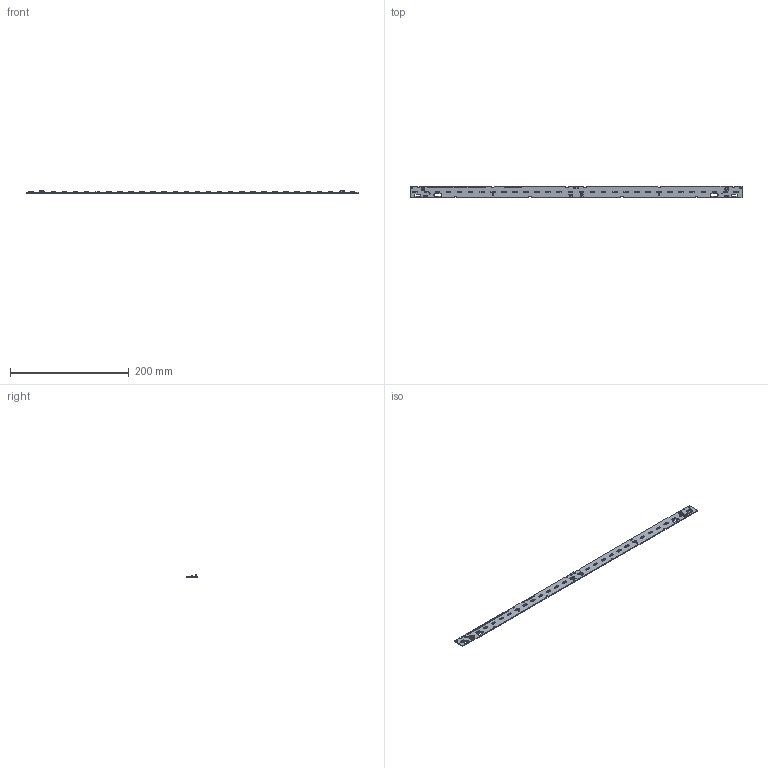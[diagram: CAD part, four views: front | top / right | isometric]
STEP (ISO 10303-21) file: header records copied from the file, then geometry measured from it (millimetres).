
FILE_DESCRIPTION(('Creo Elements/Direct Modeling STEP Export'),'2;1');
FILE_NAME('3D-Model_WU-M-719-STC.stp','2024-10-23T12:31:30',(''),(''),'PTC Creo Elements/Direct Modeling STEP processor for AP214 (Solid Model)','PTC Creo Elements/Direct Modeling 19.0E 27-Jun-2016 (C) Parametric Technology GmbH','');
FILE_SCHEMA(('AUTOMOTIVE_DESIGN { 1 0 10303 214 1 1 1 1 }'));
Length unit declared in the file: millimetre
Products named in the file (160): p1.1; p1; 2065-101_998-403.prt; 2065-101_998-403.prt.1; Konektor_STC_Wago_2065-101_998-403.stp; 2835PCT_3D_MODEL_STEP_1__1_.PRT; 2835PCT_3D_MODEL_STEP_1__2_.PRT; 2835PCT_3D_MODEL_STEP_1__1_.PRT.2.1.1.1.2; 2835PCT_3D_MODEL_STEP_1__1_.PRT.1.1.1.1.1.2; 2835PCT_3D_MODEL_STEP_1__1_.PRT.1.1.1; 2835PCT_3D_MODEL_STEP_1__1_.PRT.2.1.2.1.2; 2835PCT_3D_MODEL_STEP_1__1_.PRT.1.1.1.4.1.2; 2835PCT_3D_MODEL_STEP_1__1_.PRT.1.1.1.2.1.2; 2835PCT_3D_MODEL_STEP_1__1_.PRT.2.1; 2835PCT_3D_MODEL_STEP_1__1_.PRT.1.1.1.3; 2835PCT_3D_MODEL_STEP_1__2_.PRT.1.1.1.1.1.2; 2835PCT_3D_MODEL_STEP_1__2_.PRT.2.1.1.1.2; 2835PCT_3D_MODEL_STEP_1__2_.PRT.1.1.1; 2835PCT_3D_MODEL_STEP_1__2_.PRT.1.1.1.3; 2835PCT_3D_MODEL_STEP_1__2_.PRT.1.1.1.2.1.2; 2835PCT_3D_MODEL_STEP_1__1_.PRT.2.1.3; 2835PCT_3D_MODEL_STEP_1__1_.PRT.2.1.4.1.2; 2835PCT_3D_MODEL_STEP_1__2_.PRT.1.1.1.4.1.2; 2835PCT_3D_MODEL_STEP_1__2_.PRT.2.1; 2835PCT_3D_MODEL_STEP_1__2_.PRT.2.1.4.1.2; 2835PCT_3D_MODEL_STEP_1__2_.PRT.2.1.3; 2835PCT_3D_MODEL_STEP_1__2_.PRT.2.1.2.1.2; _____STEP.PRT.2.1.1.1.2; _____-0_STEP.PRT.1.1.1.1.1.2; _____STEP.PRT.5; _____-0_STEP.PRT.1.1.1.2.1.2; _____-0_STEP.PRT.5; _____-0_STEP.PRT.2.1; _____-0_STEP.PRT.1.1.1.4.1.2; _____-0_STEP.PRT.2.1.1.1.2; _____-0_STEP.PRT.1.1.1.3; _____-0_STEP.PRT.1.1.1; _____STEP.PRT.1.1.1.4.1.2; _____-0_STEP.PRT.2.1.4.1.2; _____STEP.PRT.1.1.1.1.1.2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
Assembly tree (422 placements, depth 6):
  p1.1
  p1
  Konektor_STC_Wago_2065-101_998-403.stp
    2065-101_998-403.prt.1
    2065-101_998-403.prt
  Diode
    J_SERIES_2835.STEP
      2835PCT_3D_MODEL_ORIGIN_CORRECT.ASM
        2835PCT_3D_MODEL_STEP.ASM
          ______STEP.ASM
            2835PCT_3D_MODEL_STEP_1__2_.PRT
            2835PCT_3D_MODEL_STEP_1__1_.PRT
          _____-0_STEP.PRT.5
          _____STEP.PRT.5
    _____-0_STEP.PRT.5  x49
    _____STEP.PRT.5  x49
    _____-0_STEP.PRT.2.1.2.1.2  x4
    _____STEP.PRT.1.1.1.2.1.2  x4
    _____STEP.PRT.1.1.1.3
    _____STEP.PRT.1.1.1.4.1.2  x4
    _____STEP.PRT.1.1.1.1.1.2  x4
    _____STEP.PRT.2.1.4.1.2  x4
    _____STEP.PRT.2.1.3
    _____STEP.PRT.2.1.2.1.2  x4
    _____STEP.PRT.2.1.1.1.2  x4
    _____STEP.PRT.2.1
    _____-0_STEP.PRT.2.1.4.1.2  x4
    _____-0_STEP.PRT.2.1.3
    _____STEP.PRT.1.1.1
    _____-0_STEP.PRT.2.1.1.1.2  x4
    _____-0_STEP.PRT.1.1.1.4.1.2  x4
    _____-0_STEP.PRT.1.1.1
    _____-0_STEP.PRT.1.1.1.3
    _____-0_STEP.PRT.1.1.1.1.1.2  x4
    _____-0_STEP.PRT.1.1.1.2.1.2  x4
    _____-0_STEP.PRT.2.1
    2835PCT_3D_MODEL_STEP_1__2_.PRT.2.1.2.1.2  x4
    2835PCT_3D_MODEL_STEP_1__2_.PRT  x49
    2835PCT_3D_MODEL_STEP_1__2_.PRT.2.1.4.1.2  x4
    2835PCT_3D_MODEL_STEP_1__2_.PRT.2.1.3
    2835PCT_3D_MODEL_STEP_1__1_.PRT  x49
    2835PCT_3D_MODEL_STEP_1__2_.PRT.2.1.1.1.2  x4
    2835PCT_3D_MODEL_STEP_1__2_.PRT.1.1.1.4.1.2  x4
    2835PCT_3D_MODEL_STEP_1__2_.PRT.1.1.1.1.1.2  x4
    2835PCT_3D_MODEL_STEP_1__2_.PRT.1.1.1.2.1.2  x4
    2835PCT_3D_MODEL_STEP_1__1_.PRT.2.1.4.1.2  x4
    2835PCT_3D_MODEL_STEP_1__2_.PRT.2.1
    2835PCT_3D_MODEL_STEP_1__1_.PRT.2.1.2.1.2  x4
    2835PCT_3D_MODEL_STEP_1__1_.PRT.2.1.3
    2835PCT_3D_MODEL_STEP_1__2_.PRT.1.1.1.3
    2835PCT_3D_MODEL_STEP_1__2_.PRT.1.1.1
    2835PCT_3D_MODEL_STEP_1__1_.PRT.1.1.1.2.1.2  x4
    2835PCT_3D_MODEL_STEP_1__1_.PRT.1.1.1.1.1.2  x4
    2835PCT_3D_MODEL_STEP_1__1_.PRT.1.1.1.3
    2835PCT_3D_MODEL_STEP_1__1_.PRT.2.1.1.1.2  x4
    2835PCT_3D_MODEL_STEP_1__1_.PRT.1.1.1.4.1.2  x4
    2835PCT_3D_MODEL_STEP_1__1_.PRT.2.1
    2835PCT_3D_MODEL_STEP_1__1_.PRT.1.1.1
  3D_Plate-WU-M-719
    3D_Plate-WU-M-719
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Bounding box: 559 x 20 x 4.3 mm (x, y, z)
Volume: 17901.1 mm3; surface area: 28776.3 mm2
Topology: 418 solids, 418 shells, 16162 faces, 45108 edges, 29694 vertices
Faces by surface type: plane 11978, cylinder 4184
Entity records: 186502 total; most frequent: CARTESIAN_POINT 26120, ORIENTED_EDGE 25396, DIRECTION 25150, EDGE_CURVE 12698, VECTOR 10162, LINE 10162, VERTEX_POINT 8406, AXIS2_PLACEMENT_3D 7494
